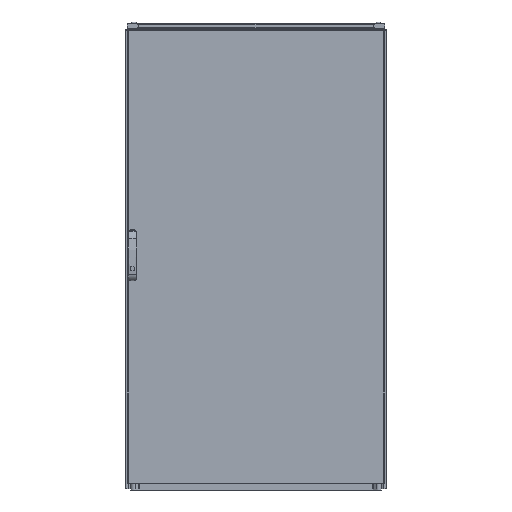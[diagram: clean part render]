
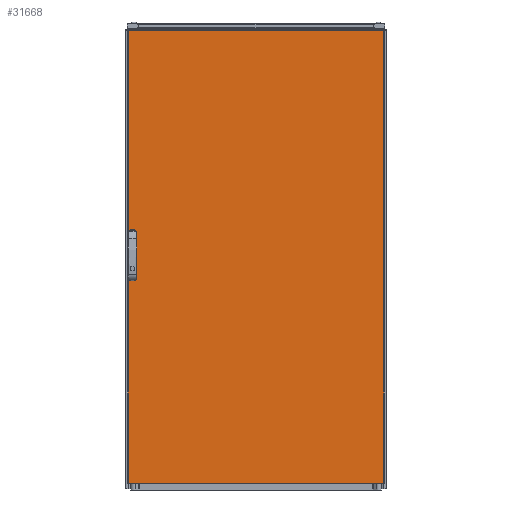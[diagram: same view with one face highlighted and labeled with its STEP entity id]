
A CAD part, front view. The second image highlights one B-rep face of the part: STEP entity #31668.
In plain terms, the highlighted planar face has unit normal (0, -1, 0).
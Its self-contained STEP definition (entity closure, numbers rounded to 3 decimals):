
#1954=CIRCLE('',#34419,9.5);
#1955=CIRCLE('',#34420,9.5);
#1956=CIRCLE('',#34421,9.5);
#1957=CIRCLE('',#34422,9.5);
#8036=ORIENTED_EDGE('',*,*,#14316,.T.);
#8037=ORIENTED_EDGE('',*,*,#14317,.T.);
#8038=ORIENTED_EDGE('',*,*,#14318,.T.);
#8039=ORIENTED_EDGE('',*,*,#14319,.T.);
#8040=ORIENTED_EDGE('',*,*,#14320,.T.);
#8041=ORIENTED_EDGE('',*,*,#14321,.T.);
#8042=ORIENTED_EDGE('',*,*,#14322,.T.);
#8043=ORIENTED_EDGE('',*,*,#14323,.T.);
#8044=ORIENTED_EDGE('',*,*,#14324,.T.);
#8045=ORIENTED_EDGE('',*,*,#14325,.T.);
#8046=ORIENTED_EDGE('',*,*,#14326,.T.);
#8047=ORIENTED_EDGE('',*,*,#14327,.T.);
#14316=EDGE_CURVE('',#17947,#17948,#20941,.T.);
#14317=EDGE_CURVE('',#17948,#17949,#20942,.T.);
#14318=EDGE_CURVE('',#17949,#17950,#20943,.F.);
#14319=EDGE_CURVE('',#17950,#17947,#20944,.F.);
#14320=EDGE_CURVE('',#17951,#17952,#1954,.T.);
#14321=EDGE_CURVE('',#17952,#17953,#20945,.T.);
#14322=EDGE_CURVE('',#17953,#17954,#1955,.T.);
#14323=EDGE_CURVE('',#17954,#17951,#20946,.T.);
#14324=EDGE_CURVE('',#17955,#17956,#1956,.T.);
#14325=EDGE_CURVE('',#17956,#17957,#20947,.T.);
#14326=EDGE_CURVE('',#17957,#17958,#1957,.T.);
#14327=EDGE_CURVE('',#17958,#17955,#20948,.T.);
#17947=VERTEX_POINT('',#51158);
#17948=VERTEX_POINT('',#51159);
#17949=VERTEX_POINT('',#51161);
#17950=VERTEX_POINT('',#51163);
#17951=VERTEX_POINT('',#51166);
#17952=VERTEX_POINT('',#51167);
#17953=VERTEX_POINT('',#51169);
#17954=VERTEX_POINT('',#51171);
#17955=VERTEX_POINT('',#51174);
#17956=VERTEX_POINT('',#51175);
#17957=VERTEX_POINT('',#51177);
#17958=VERTEX_POINT('',#51179);
#20941=LINE('',#51157,#23648);
#20942=LINE('',#51160,#23649);
#20943=LINE('',#51162,#23650);
#20944=LINE('',#51164,#23651);
#20945=LINE('',#51168,#23652);
#20946=LINE('',#51172,#23653);
#20947=LINE('',#51176,#23654);
#20948=LINE('',#51180,#23655);
#23648=VECTOR('',#41532,1000.);
#23649=VECTOR('',#41533,1000.);
#23650=VECTOR('',#41534,1000.);
#23651=VECTOR('',#41535,1000.);
#23652=VECTOR('',#41538,1000.);
#23653=VECTOR('',#41541,1000.);
#23654=VECTOR('',#41544,1000.);
#23655=VECTOR('',#41547,1000.);
#25962=EDGE_LOOP('',(#8036,#8037,#8038,#8039));
#25963=EDGE_LOOP('',(#8040,#8041,#8042,#8043));
#25964=EDGE_LOOP('',(#8044,#8045,#8046,#8047));
#28560=FACE_BOUND('',#25962,.T.);
#28561=FACE_BOUND('',#25963,.T.);
#28562=FACE_BOUND('',#25964,.T.);
#30369=PLANE('',#34418);
#31668=ADVANCED_FACE('',(#28560,#28561,#28562),#30369,.F.);
#34418=AXIS2_PLACEMENT_3D('',#51156,#41530,#41531);
#34419=AXIS2_PLACEMENT_3D('',#51165,#41536,#41537);
#34420=AXIS2_PLACEMENT_3D('',#51170,#41539,#41540);
#34421=AXIS2_PLACEMENT_3D('',#51173,#41542,#41543);
#34422=AXIS2_PLACEMENT_3D('',#51178,#41545,#41546);
#41530=DIRECTION('',(0.,1.,0.));
#41531=DIRECTION('',(0.,0.,1.));
#41532=DIRECTION('',(0.,0.,-1.));
#41533=DIRECTION('',(1.,0.,0.));
#41534=DIRECTION('',(0.,0.,-1.));
#41535=DIRECTION('',(1.,0.,0.));
#41536=DIRECTION('',(0.,1.,0.));
#41537=DIRECTION('',(1.,0.,0.));
#41538=DIRECTION('',(0.,0.,1.));
#41539=DIRECTION('',(0.,1.,0.));
#41540=DIRECTION('',(1.,0.,0.));
#41541=DIRECTION('',(0.,0.,-1.));
#41542=DIRECTION('',(0.,1.,0.));
#41543=DIRECTION('',(1.,0.,0.));
#41544=DIRECTION('',(0.,0.,1.));
#41545=DIRECTION('',(0.,1.,0.));
#41546=DIRECTION('',(1.,0.,0.));
#41547=DIRECTION('',(0.,0.,-1.));
#51156=CARTESIAN_POINT('',(-497.5,-19.,880.));
#51157=CARTESIAN_POINT('',(-494.5,-19.,880.));
#51158=CARTESIAN_POINT('',(-494.5,-19.,877.));
#51159=CARTESIAN_POINT('',(-494.5,-19.,-877.));
#51160=CARTESIAN_POINT('',(-497.5,-19.,-877.));
#51161=CARTESIAN_POINT('',(494.5,-19.,-877.));
#51162=CARTESIAN_POINT('',(494.5,-19.,880.));
#51163=CARTESIAN_POINT('',(494.5,-19.,877.));
#51164=CARTESIAN_POINT('',(-497.5,-19.,877.));
#51165=CARTESIAN_POINT('',(-478.3,-19.,32.25));
#51166=CARTESIAN_POINT('',(-468.8,-19.,32.25));
#51167=CARTESIAN_POINT('',(-487.8,-19.,32.25));
#51168=CARTESIAN_POINT('',(-487.8,-19.,32.25));
#51169=CARTESIAN_POINT('',(-487.8,-19.,80.25));
#51170=CARTESIAN_POINT('',(-478.3,-19.,80.25));
#51171=CARTESIAN_POINT('',(-468.8,-19.,80.25));
#51172=CARTESIAN_POINT('',(-468.8,-19.,80.25));
#51173=CARTESIAN_POINT('',(-478.3,-19.,-80.25));
#51174=CARTESIAN_POINT('',(-468.8,-19.,-80.25));
#51175=CARTESIAN_POINT('',(-487.8,-19.,-80.25));
#51176=CARTESIAN_POINT('',(-487.8,-19.,-80.25));
#51177=CARTESIAN_POINT('',(-487.8,-19.,-32.25));
#51178=CARTESIAN_POINT('',(-478.3,-19.,-32.25));
#51179=CARTESIAN_POINT('',(-468.8,-19.,-32.25));
#51180=CARTESIAN_POINT('',(-468.8,-19.,-32.25));
